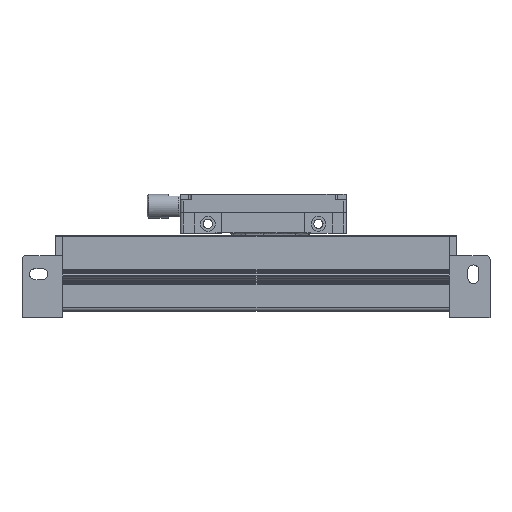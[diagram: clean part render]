
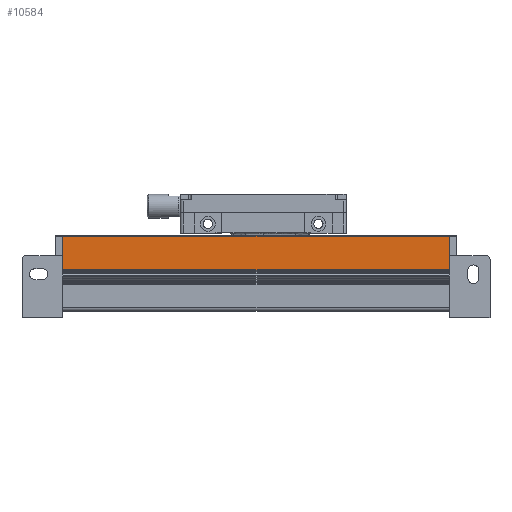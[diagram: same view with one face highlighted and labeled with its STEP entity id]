
A CAD part, top view. The second image highlights one B-rep face of the part: STEP entity #10584.
In plain terms, the highlighted planar face has unit normal (0, 0, 1).
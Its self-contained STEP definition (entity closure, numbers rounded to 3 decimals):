
#2993 = DIRECTION ( 'NONE',  ( 1., 0., 0. ) ) ;
#2994 = DIRECTION ( 'NONE',  ( 0., 0., 1. ) ) ;
#3004 = CARTESIAN_POINT ( 'NONE',  ( 1039.22, -58.518, 14. ) ) ;
#3007 = PLANE ( 'NONE',  #17578 ) ;
#3394 = DIRECTION ( 'NONE',  ( -1., 0., 0. ) ) ;
#3395 = CARTESIAN_POINT ( 'NONE',  ( 1039.22, -58.518, 14. ) ) ;
#3401 = DIRECTION ( 'NONE',  ( 1., 0., 0. ) ) ;
#3402 = CARTESIAN_POINT ( 'NONE',  ( 1039.22, -76.518, 14. ) ) ;
#3606 = LINE ( 'NONE', #3395, #3613 ) ;
#3613 = VECTOR ( 'NONE', #3394, 1000. ) ;
#3615 = LINE ( 'NONE', #3402, #3616 ) ;
#3616 = VECTOR ( 'NONE', #3401, 1000. ) ;
#3797 = FACE_OUTER_BOUND ( 'NONE', #7360, .T. ) ;
#4944 = EDGE_CURVE ( 'NONE', #6690, #6559, #8365, .T. ) ;
#4948 = EDGE_CURVE ( 'NONE', #6110, #6563, #8357, .T. ) ;
#5746 = DIRECTION ( 'NONE',  ( 0., -1., 0. ) ) ;
#5747 = CARTESIAN_POINT ( 'NONE',  ( -290.78, -58.518, 14. ) ) ;
#5754 = DIRECTION ( 'NONE',  ( 0., -1., 0. ) ) ;
#5755 = CARTESIAN_POINT ( 'NONE',  ( -80.78, -58.518, 14. ) ) ;
#6110 = VERTEX_POINT ( 'NONE', #13090 ) ;
#6559 = VERTEX_POINT ( 'NONE', #11541 ) ;
#6563 = VERTEX_POINT ( 'NONE', #11536 ) ;
#6690 = VERTEX_POINT ( 'NONE', #11347 ) ;
#7360 = EDGE_LOOP ( 'NONE', ( #12822, #12823, #12824, #12825 ) ) ;
#8356 = VECTOR ( 'NONE', #5746, 1000. ) ;
#8357 = LINE ( 'NONE', #5747, #8356 ) ;
#8364 = VECTOR ( 'NONE', #5754, 1000. ) ;
#8365 = LINE ( 'NONE', #5755, #8364 ) ;
#9309 = EDGE_CURVE ( 'NONE', #6563, #6559, #3615, .T. ) ;
#9312 = EDGE_CURVE ( 'NONE', #6690, #6110, #3606, .T. ) ;
#10584 = ADVANCED_FACE ( 'NONE', ( #3797 ), #3007, .T. ) ;
#11347 = CARTESIAN_POINT ( 'NONE',  ( -80.78, -58.518, 14. ) ) ;
#11536 = CARTESIAN_POINT ( 'NONE',  ( -290.78, -76.518, 14. ) ) ;
#11541 = CARTESIAN_POINT ( 'NONE',  ( -80.78, -76.518, 14. ) ) ;
#12822 = ORIENTED_EDGE ( 'NONE', *, *, #9309, .T. ) ;
#12823 = ORIENTED_EDGE ( 'NONE', *, *, #4944, .F. ) ;
#12824 = ORIENTED_EDGE ( 'NONE', *, *, #9312, .T. ) ;
#12825 = ORIENTED_EDGE ( 'NONE', *, *, #4948, .T. ) ;
#13090 = CARTESIAN_POINT ( 'NONE',  ( -290.78, -58.518, 14. ) ) ;
#17578 = AXIS2_PLACEMENT_3D ( 'NONE', #3004, #2994, #2993 ) ;
